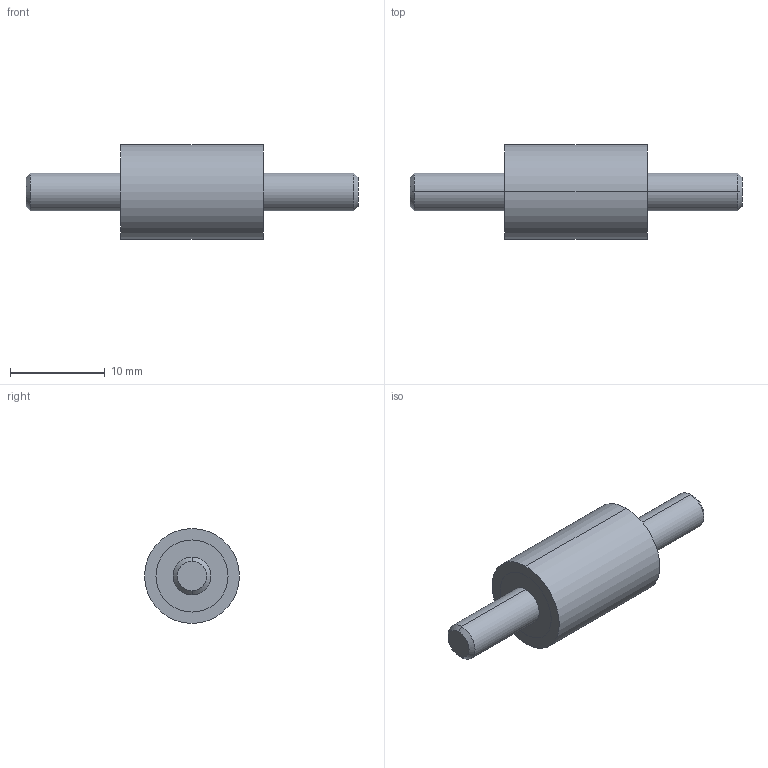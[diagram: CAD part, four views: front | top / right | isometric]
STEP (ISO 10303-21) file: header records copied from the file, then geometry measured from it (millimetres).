
FILE_DESCRIPTION (( 'STEP AP214' ), '1' );
FILE_NAME ('351-10-15-M4-SS-55.step', '2025-07-23T09:52:20', ( '' ), ( '' ), 'SwSTEP 2.0', 'SolidWorks 2022', '' );
FILE_SCHEMA (( 'AUTOMOTIVE_DESIGN' ));
Length unit declared in the file: millimetre
Products named in the file (1): 351-10-15-M4-SS-55
Bounding box: 35 x 10 x 10 mm (x, y, z)
Volume: 1426.4 mm3; surface area: 873.2 mm2
Topology: 1 solids, 1 shells, 20 faces, 38 edges, 24 vertices
Faces by surface type: cylinder 10, plane 6, cone 4
Entity records: 636 total; most frequent: DIRECTION 104, CARTESIAN_POINT 83, ORIENTED_EDGE 76, AXIS2_PLACEMENT_3D 45, EDGE_CURVE 38, CIRCLE 24, VERTEX_POINT 24, EDGE_LOOP 24
